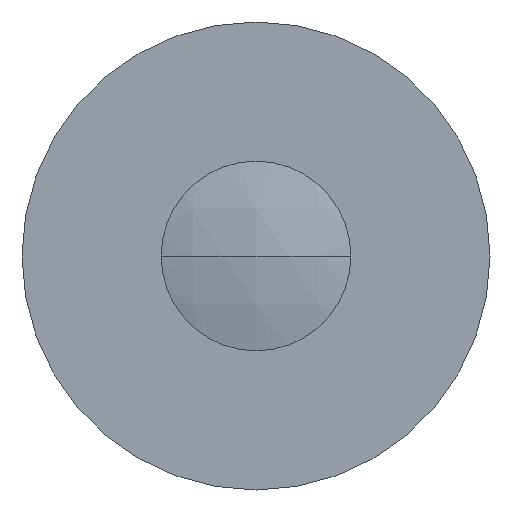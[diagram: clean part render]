
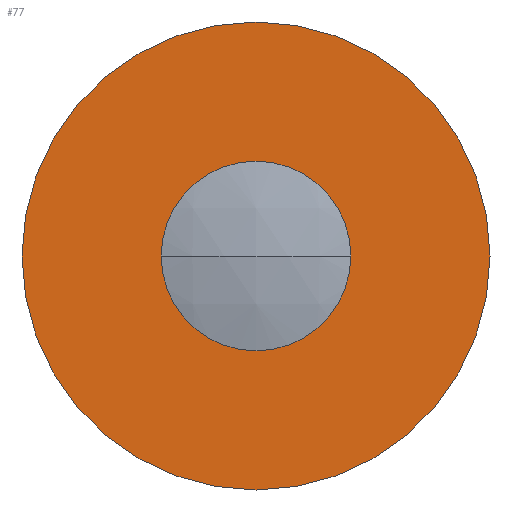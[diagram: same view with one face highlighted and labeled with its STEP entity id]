
A CAD part, front view. The second image highlights one B-rep face of the part: STEP entity #77.
In plain terms, the highlighted planar face has unit normal (0, -1, 0).
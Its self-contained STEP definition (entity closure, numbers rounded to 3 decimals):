
#77=ADVANCED_FACE('',(#115,#116),#117,.F.);
#115=FACE_OUTER_BOUND('',#191,.T.);
#116=FACE_BOUND('',#192,.T.);
#117=PLANE('',#193);
#191=EDGE_LOOP('',(#277,#278));
#192=EDGE_LOOP('',(#279,#280));
#193=AXIS2_PLACEMENT_3D('',#281,#282,#283);
#277=ORIENTED_EDGE('',*,*,#527,.T.);
#278=ORIENTED_EDGE('',*,*,#523,.T.);
#279=ORIENTED_EDGE('',*,*,#528,.F.);
#280=ORIENTED_EDGE('',*,*,#529,.F.);
#281=CARTESIAN_POINT('',(-29.0,-7.0,0.0));
#282=DIRECTION('',(-0.0,1.0,0.0));
#283=DIRECTION('',(1.0,0.0,0.0));
#523=EDGE_CURVE('',#597,#601,#603,.T.);
#527=EDGE_CURVE('',#601,#597,#609,.T.);
#528=EDGE_CURVE('',#610,#611,#612,.T.);
#529=EDGE_CURVE('',#611,#610,#613,.T.);
#597=VERTEX_POINT('',#722);
#601=VERTEX_POINT('',#727);
#603=CIRCLE('',#730,29.0);
#609=CIRCLE('',#738,29.0);
#610=VERTEX_POINT('',#739);
#611=VERTEX_POINT('',#740);
#612=CIRCLE('',#741,11.75);
#613=CIRCLE('',#742,11.75);
#722=CARTESIAN_POINT('',(0.,-7.0,29.0));
#727=CARTESIAN_POINT('',(0.0,-7.0,-29.0));
#730=AXIS2_PLACEMENT_3D('',#901,#902,#903);
#738=AXIS2_PLACEMENT_3D('',#909,#910,#911);
#739=CARTESIAN_POINT('',(-11.75,-7.0,0.0));
#740=CARTESIAN_POINT('',(11.75,-7.0,0.));
#741=AXIS2_PLACEMENT_3D('',#912,#913,#914);
#742=AXIS2_PLACEMENT_3D('',#915,#916,#917);
#901=CARTESIAN_POINT('',(0.0,-7.0,0.0));
#902=DIRECTION('',(0.0,-1.0,0.0));
#903=DIRECTION('',(0.0,0.0,-1.0));
#909=CARTESIAN_POINT('',(0.0,-7.0,0.0));
#910=DIRECTION('',(0.0,-1.0,0.0));
#911=DIRECTION('',(0.0,0.0,-1.0));
#912=CARTESIAN_POINT('',(0.0,-7.0,0.0));
#913=DIRECTION('',(0.0,-1.0,0.0));
#914=DIRECTION('',(0.0,0.0,-1.0));
#915=CARTESIAN_POINT('',(0.0,-7.0,0.0));
#916=DIRECTION('',(0.0,-1.0,0.0));
#917=DIRECTION('',(0.0,0.0,-1.0));
